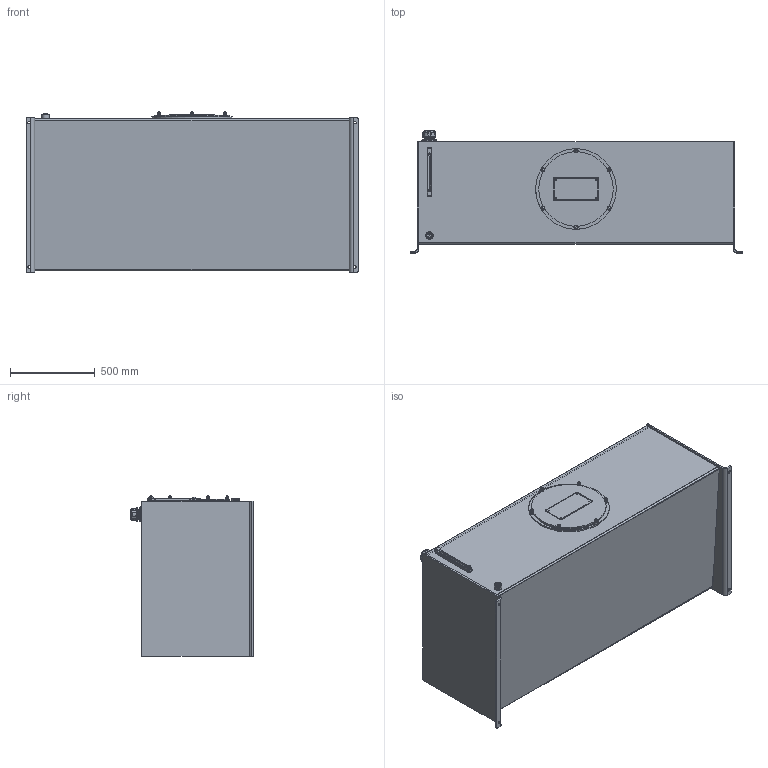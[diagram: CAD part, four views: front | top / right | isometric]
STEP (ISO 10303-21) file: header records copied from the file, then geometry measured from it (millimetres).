
FILE_DESCRIPTION (( 'STEP AP214' ), '1' );
FILE_NAME ('RDIN200-CFA.STEP', '2021-10-18T14:00:39', ( 'Windows User' ), ( '' ), 'SwSTEP 2.0', 'SolidWorks 2020', '' );
FILE_SCHEMA (( 'AUTOMOTIVE_DESIGN' ));
Length unit declared in the file: inch
Products named in the file (21): FB-H008W; RDIN200-CFA-BODY_RJIC020-BODY; RDIN200-CFA; FB-S-W; PLLG-10T; NAC100-15; BHS8100-15350; RDIN200-CFA-TOP; 8162-010-2_4534K46; FB-F008_FB-F-008; RDIN200-CFA-LEND; RHJ-PLUG-016; WFZM010; REC-M475C; QSTSBUR00080008; FB-C-H_FB-H008W; RHJ-PLUG-200; S16; RDIN200-CFA-REND; Weld Riser; REC-M475K
Assembly tree (36 placements, depth 3):
  RDIN200-CFA
    RDIN200-CFA-BODY_RJIC020-BODY
    RDIN200-CFA-LEND
    RDIN200-CFA-REND
    RDIN200-CFA-TOP
    QSTSBUR00080008  x4
    Weld Riser
    S16
    BHS8100-15350  x6
    FB-H008W
      FB-F008_FB-F-008
      FB-S-W
      FB-C-H_FB-H008W
    REC-M475K
      REC-M475C
      NAC100-15  x6
      WFZM010  x6
    PLLG-10T
    8162-010-2_4534K46
  RHJ-PLUG-016
  RHJ-PLUG-200
Bounding box: 1955.8 x 718.76 x 947.84 mm (x, y, z)
Volume: 46622785.9 mm3; surface area: 13975524.8 mm2
Topology: 37 solids, 37 shells, 1228 faces, 2875 edges, 1707 vertices
Faces by surface type: cylinder 413, plane 383, cone 190, bspline 100, torus 94, sphere 48
Entity records: 34650 total; most frequent: CARTESIAN_POINT 9606, DIRECTION 5014, ORIENTED_EDGE 4602, EDGE_CURVE 2301, AXIS2_PLACEMENT_3D 2047, VERTEX_POINT 1383, CIRCLE 1121, EDGE_LOOP 1108
